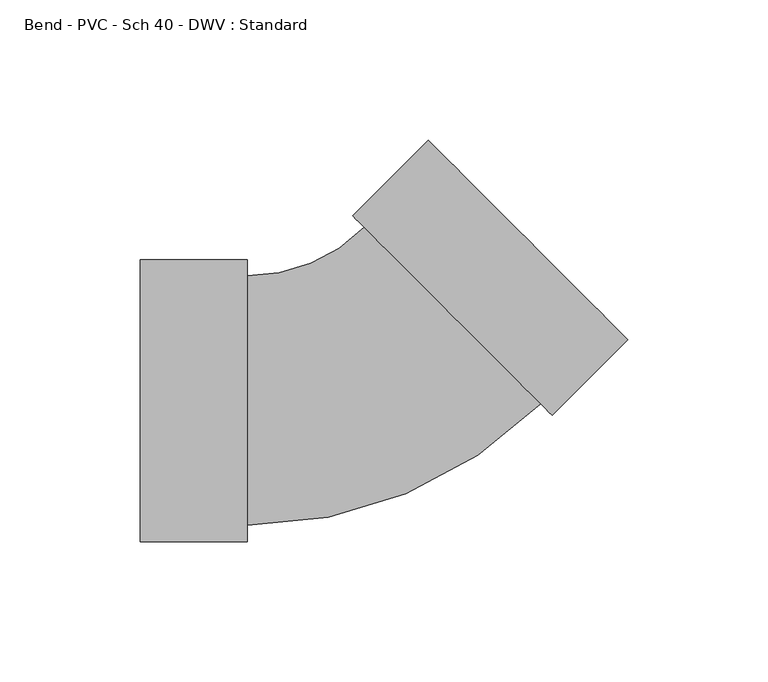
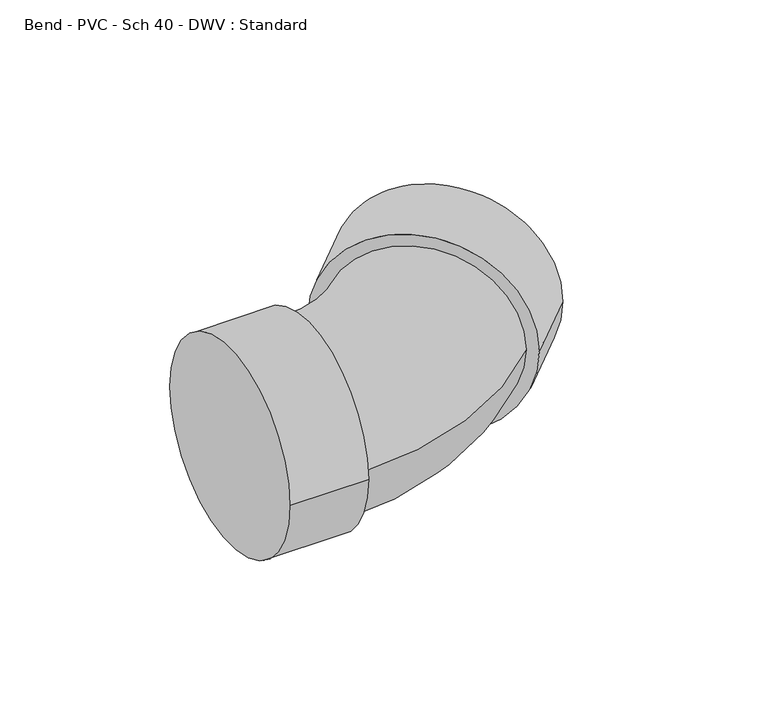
"""IFC4 building model written with IfcOpenShell, lengths in millimetres: pipe fitting geometry, Bend - PVC - Sch 40 - DWV : Standard."""

from ifc_helpers import new_model, si_unit, point, frame, origin, place, context, project, spatial, circle_curve, ellipse_curve, trimmed, source, transform, mapped, element, save
from ifc_brep_helpers import plane_surface, cylinder_surface, revolved_surface, advanced_brep


def bend_pvc_sch_40_dwv_standard_8f92de95(model_context):
    return source(origin(), model_context, "Body", "AdvancedBrep", [
        advanced_brep(
        [(-80.9752, -50.2666, 0.0), (-80.9752, 50.2666, 0.0), (-42.8752, -50.2666, 0.0), (-42.8752, 50.2666, 0.0), (-42.8752, -44.45, 0.0), (-42.8752, 44.45, 0.0), (-1.1165158, 61.7481876, 0.0), (61.7482945, -1.1105877, 0.0), (65.8614492, -5.2233476, 0.0), (-5.2296706, 65.8609474, 0.0), (92.8009243, 21.718714, 0.0), (21.7098046, 92.803009, 0.0)],
        [
            (0, 1, circle_curve(frame((-80.9752, 0.0, 0.0), z_axis=(-1.0, 0.0, 0.0), x_axis=(0.0, 1.0, 0.0)), 50.2666)),
            (1, 0, circle_curve(frame((-80.9752, 0.0, 0.0), z_axis=(-1.0, 0.0, 0.0), x_axis=(0.0, 1.0, 0.0)), 50.2666)),
            (2, 3, circle_curve(frame((-42.8752, 0.0, 0.0), z_axis=(1.0, 0.0, 0.0), x_axis=(0.0, 1.0, 0.0)), 50.2666)),
            (3, 2, circle_curve(frame((-42.8752, 0.0, 0.0), z_axis=(1.0, 0.0, 0.0), x_axis=(0.0, 1.0, 0.0)), 50.2666)),
            (4, 5, circle_curve(frame((-42.8752, 0.0, 0.0), z_axis=(-1.0, 0.0, 0.0), x_axis=(0.0, 1.0, 0.0)), 44.45)),
            (5, 4, circle_curve(frame((-42.8752, 0.0, 0.0), z_axis=(-1.0, 0.0, 0.0), x_axis=(0.0, 1.0, 0.0)), 44.45)),
            (0, 2),
            (3, 1),
            (6, 5, circle_curve(frame((-42.8752, 103.5028629, 0.0), z_axis=(0.0, 0.0, -1.0), x_axis=(0.0, -1.0, 0.0)), 59.0528629)),
            (4, 7, circle_curve(frame((-42.8752, 103.5028629, 0.0), z_axis=(0.0, 0.0, 1.0), x_axis=(0.0, -1.0, 0.0)), 147.9528629)),
            (7, 6, circle_curve(frame((30.3158893, 30.3187999, 0.0), z_axis=(-0.7070728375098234, -0.707140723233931, 0.0), x_axis=(-0.707140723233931, 0.7070728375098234, 0.0)), 44.45)),
            (6, 7, circle_curve(frame((30.3158893, 30.3187999, 0.0), z_axis=(-0.7070728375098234, -0.707140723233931, 0.0), x_axis=(-0.707140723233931, 0.7070728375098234, 0.0)), 44.45)),
            (8, 9, circle_curve(frame((30.3158893, 30.3187999, 0.0), z_axis=(-0.7070728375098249, -0.7071407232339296, 0.0), x_axis=(-0.7071407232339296, 0.7070728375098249, 0.0)), 50.2666)),
            (9, 8, circle_curve(frame((30.3158893, 30.3187999, 0.0), z_axis=(-0.7070728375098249, -0.7071407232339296, 0.0), x_axis=(-0.7071407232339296, 0.7070728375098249, 0.0)), 50.2666)),
            (10, 11, circle_curve(frame((57.2553644, 57.2608615, 0.0), z_axis=(0.7070728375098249, 0.7071407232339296, 0.0), x_axis=(-0.7071407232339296, 0.7070728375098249, 0.0)), 50.2666)),
            (11, 10, circle_curve(frame((57.2553644, 57.2608615, 0.0), z_axis=(0.7070728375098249, 0.7071407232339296, 0.0), x_axis=(-0.7071407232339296, 0.7070728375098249, 0.0)), 50.2666)),
            (8, 10),
            (11, 9),
        ],
        [
            plane_surface(frame((-80.9752, 0.0, 0.0), z_axis=(-1.0, 0.0, 0.0), x_axis=(0.0, 0.0, 1.0))),
            plane_surface(frame((-42.8752, 0.0, 0.0), z_axis=(1.0, 0.0, 0.0), x_axis=(0.0, 0.0, 1.0))),
            cylinder_surface(frame((-80.9752, 0.0, 0.0), z_axis=(-1.0, 0.0, 0.0), x_axis=(0.0, 1.0, 0.0)), 50.2666),
            revolved_surface(trimmed(ellipse_curve(frame((-42.8752, 0.0, 0.0), z_axis=(-1.0, 0.0, 0.0), x_axis=(0.0, 1.0, 0.0)), 44.45, 44.45), [point((-42.8752, -44.45, 0.0))], [point((-42.8752, 44.45, 0.0))], True, "CARTESIAN"), (-42.8752, 103.5028629, 0.0), (0.0, 0.0, 1.0)),
            revolved_surface(trimmed(ellipse_curve(frame((-42.8752, 0.0, 0.0), z_axis=(-1.0, 0.0, 0.0), x_axis=(0.0, 1.0, 0.0)), 44.45, 44.45), [point((-42.8752, 44.45, 0.0))], [point((-42.8752, -44.45, 0.0))], True, "CARTESIAN"), (-42.8752, 103.5028629, 0.0), (0.0, 0.0, 1.0)),
            plane_surface(frame((30.3158893, 30.3187999, 0.0), z_axis=(-0.7070728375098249, -0.7071407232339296, 0.0), x_axis=(0.0, 0.0, 1.0))),
            plane_surface(frame((57.2553644, 57.2608615, 0.0), z_axis=(0.7070728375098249, 0.7071407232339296, 0.0), x_axis=(0.0, 0.0, 1.0))),
            cylinder_surface(frame((30.3158893, 30.3187999, 0.0), z_axis=(-0.7070728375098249, -0.7071407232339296, 0.0), x_axis=(-0.7071407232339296, 0.7070728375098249, 0.0)), 50.2666),
        ],
        [
            (0, [[1, 2]]),
            (1, [[3, 4], [5, 6]]),
            (2, [[-1, 7, -4, 8]]),
            (2, [[-2, -8, -3, -7]]),
            (3, [[9, -5, 10, 11]]),
            (4, [[-9, 12, -10, -6]]),
            (5, [[13, 14], [-11, -12]]),
            (6, [[15, 16]]),
            (7, [[-13, 17, -16, 18]]),
            (7, [[-14, -18, -15, -17]]),
        ],
    ),
    ])


if __name__ == "__main__":
    model = new_model("IFC4")
    model_context = context("Model", 3, world=origin())
    ifc_project = project(units=[si_unit("LENGTHUNIT", "METRE", prefix="MILLI")], contexts=[model_context])
    site = spatial("IfcSite", under=ifc_project)
    building = spatial("IfcBuilding", under=site)
    placement = place(None, origin())
    bend_pvc_sch_40_dwv_standard_shape = bend_pvc_sch_40_dwv_standard_8f92de95(model_context)
    element("IfcPipeFitting", 1, ObjectType="Bend - PVC - Sch 40 - DWV : Standard", at=placement, inside=building, context=model_context, shape_type="MappedRepresentation", body=[
        mapped(bend_pvc_sch_40_dwv_standard_shape, transform((0.0, 0.0, 0.0), x_axis=(1.0, 0.0, 0.0), y_axis=(0.0, 1.0, 0.0), z_axis=(0.0, 0.0, 1.0))),
    ])
    save(model, "model.ifc")
